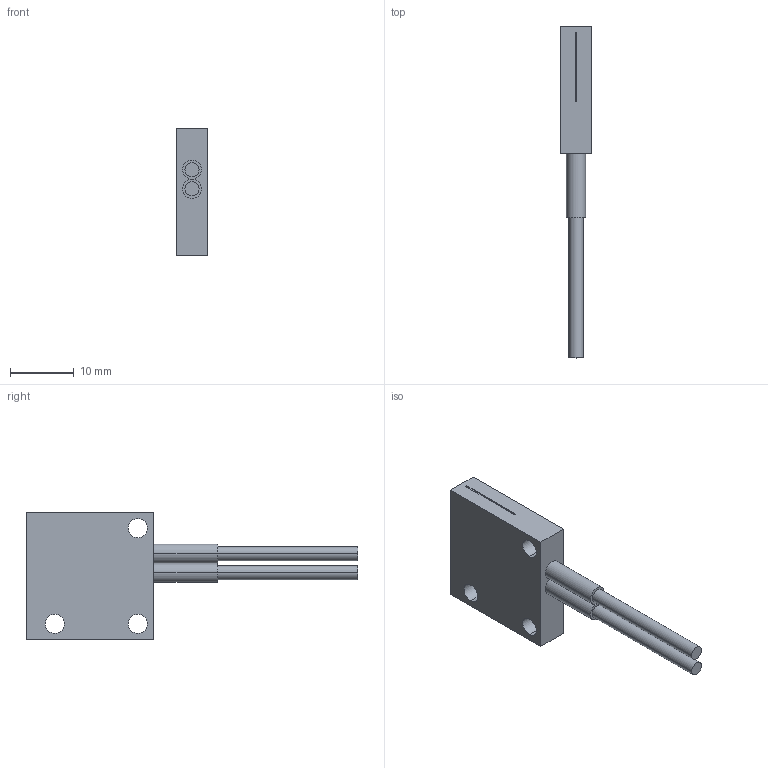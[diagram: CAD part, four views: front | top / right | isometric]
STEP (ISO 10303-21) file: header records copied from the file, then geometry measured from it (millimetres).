
FILE_DESCRIPTION (( 'STEP AP203' ), '1' );
FILE_NAME ('FD-AFM2E.STEP', '2005-09-04T09:17:07', ( '川島良英' ), ( ' ' ), 'SwSTEP 2.0', 'SolidWorks 2004251', '' );
FILE_SCHEMA (( 'CONFIG_CONTROL_DESIGN' ));
Length unit declared in the file: millimetre
Products named in the file (1): FD-AFM2E
Bounding box: 5 x 52 x 20 mm (x, y, z)
Volume: 2202.3 mm3; surface area: 1793.8 mm2
Topology: 1 solids, 1 shells, 29 faces, 66 edges, 44 vertices
Faces by surface type: plane 15, cylinder 14
Entity records: 917 total; most frequent: DIRECTION 154, CARTESIAN_POINT 140, ORIENTED_EDGE 132, EDGE_CURVE 66, AXIS2_PLACEMENT_3D 58, VERTEX_POINT 44, EDGE_LOOP 40, VECTOR 38
